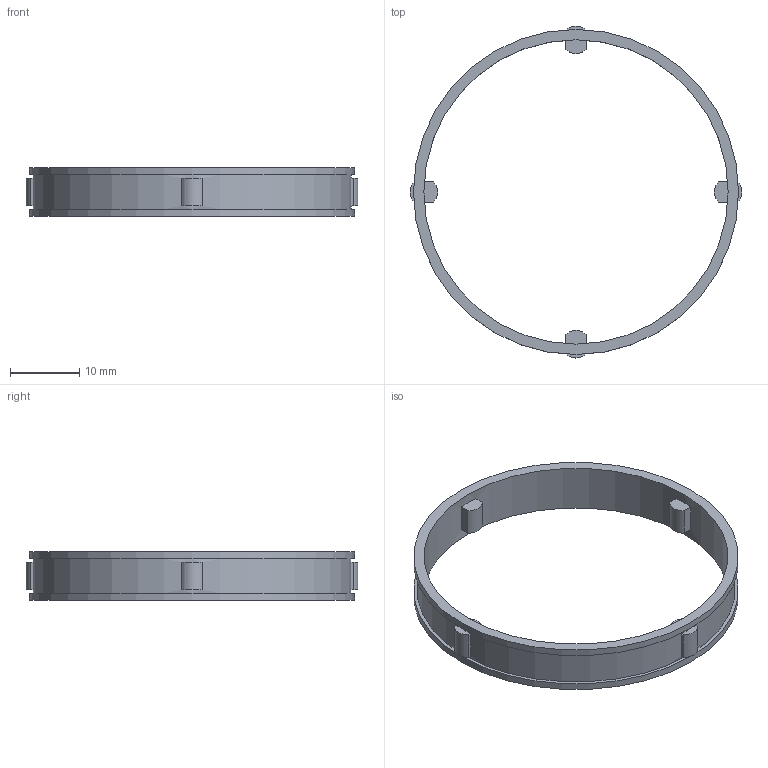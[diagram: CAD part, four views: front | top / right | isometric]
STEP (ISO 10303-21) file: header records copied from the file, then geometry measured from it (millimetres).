
FILE_DESCRIPTION(/* description */ (''),/* implementation_level */ '2;1');
FILE_NAME(/* name */ '300477 FE 448 Z2.stp',/* time_stamp */ '2016-11-03T14:05:16+01:00',/* author */ (''),/* organization */ (''),/* preprocessor_version */ 'ST-DEVELOPER v15',/* originating_system */ 'SIEMENS PLM Software NX 8.5',/* authorisation */ '');
FILE_SCHEMA (('CONFIG_CONTROL_DESIGN'));
Length unit declared in the file: millimetre
Products named in the file (1): ATE0000079_01
Bounding box: 48 x 48 x 7 mm (x, y, z)
Volume: 1258.1 mm3; surface area: 2687.8 mm2
Topology: 1 solids, 1 shells, 48 faces, 114 edges, 76 vertices
Faces by surface type: plane 36, cylinder 12
Full cylindrical faces by diameter (mm): 44 x1, 46 x1, 47 x2
Entity records: 1420 total; most frequent: DIRECTION 242, CARTESIAN_POINT 225, ORIENTED_EDGE 208, EDGE_CURVE 104, AXIS2_PLACEMENT_3D 89, VERTEX_POINT 72, LINE 64, VECTOR 64
